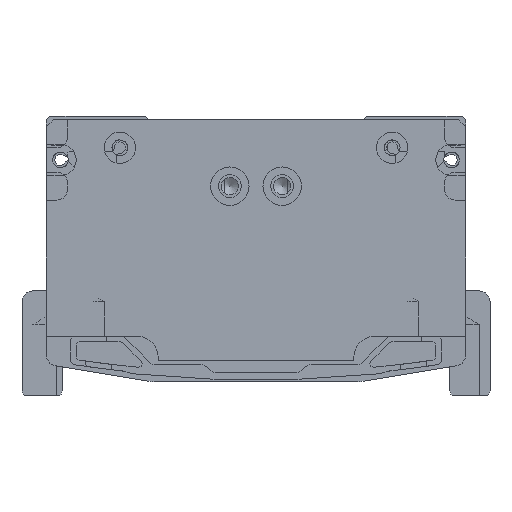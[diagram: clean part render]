
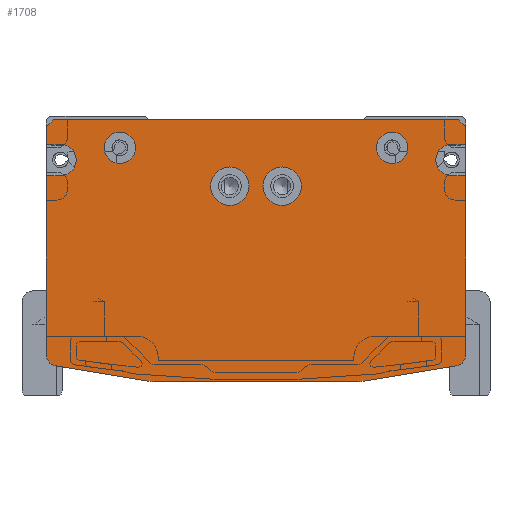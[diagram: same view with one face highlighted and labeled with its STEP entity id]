
A CAD part, front view. The second image highlights one B-rep face of the part: STEP entity #1708.
In plain terms, the highlighted planar face has unit normal (0, -1, 0).
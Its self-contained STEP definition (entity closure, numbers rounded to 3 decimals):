
#1708=ADVANCED_FACE('',(#2873,#2874,#2875,#2876,#2877),#2388,.F.);
#2388=PLANE('',#17058);
#2873=FACE_BOUND('',#4082,.T.);
#2874=FACE_BOUND('',#4083,.T.);
#2875=FACE_BOUND('',#4084,.T.);
#2876=FACE_BOUND('',#4085,.T.);
#2877=FACE_BOUND('',#4086,.T.);
#4082=EDGE_LOOP('',(#8028));
#4083=EDGE_LOOP('',(#8029));
#4084=EDGE_LOOP('',(#8030,#8031,#8032,#8033,#8034,#8035,#8036,#8037,#8038,
#8039,#8040,#8041,#8042,#8043,#8044,#8045,#8046,#8047,#8048,#8049));
#4085=EDGE_LOOP('',(#8050));
#4086=EDGE_LOOP('',(#8051));
#5294=CIRCLE('',#16959,5.5);
#5298=CIRCLE('',#16966,5.5);
#5301=CIRCLE('',#16972,4.5);
#5305=CIRCLE('',#16979,4.5);
#5312=CIRCLE('',#16997,4.5);
#5315=CIRCLE('',#17006,3.);
#5318=CIRCLE('',#17011,10.);
#5319=CIRCLE('',#17014,10.);
#5322=CIRCLE('',#17019,3.);
#5330=CIRCLE('',#17046,4.5);
#8028=ORIENTED_EDGE('',*,*,#13024,.T.);
#8029=ORIENTED_EDGE('',*,*,#13028,.T.);
#8030=ORIENTED_EDGE('',*,*,#13089,.T.);
#8031=ORIENTED_EDGE('',*,*,#13085,.F.);
#8032=ORIENTED_EDGE('',*,*,#13083,.F.);
#8033=ORIENTED_EDGE('',*,*,#13080,.F.);
#8034=ORIENTED_EDGE('',*,*,#13076,.T.);
#8035=ORIENTED_EDGE('',*,*,#13073,.T.);
#8036=ORIENTED_EDGE('',*,*,#12730,.F.);
#8037=ORIENTED_EDGE('',*,*,#13059,.T.);
#8038=ORIENTED_EDGE('',*,*,#13056,.T.);
#8039=ORIENTED_EDGE('',*,*,#13054,.F.);
#8040=ORIENTED_EDGE('',*,*,#12726,.F.);
#8041=ORIENTED_EDGE('',*,*,#13050,.T.);
#8042=ORIENTED_EDGE('',*,*,#12701,.F.);
#8043=ORIENTED_EDGE('',*,*,#13048,.T.);
#8044=ORIENTED_EDGE('',*,*,#12457,.F.);
#8045=ORIENTED_EDGE('',*,*,#13124,.T.);
#8046=ORIENTED_EDGE('',*,*,#13121,.T.);
#8047=ORIENTED_EDGE('',*,*,#13119,.F.);
#8048=ORIENTED_EDGE('',*,*,#12453,.F.);
#8049=ORIENTED_EDGE('',*,*,#13092,.T.);
#8050=ORIENTED_EDGE('',*,*,#13035,.F.);
#8051=ORIENTED_EDGE('',*,*,#13031,.F.);
#10722=VERTEX_POINT('',#24858);
#10723=VERTEX_POINT('',#24860);
#10726=VERTEX_POINT('',#24866);
#10727=VERTEX_POINT('',#24868);
#10848=VERTEX_POINT('',#25698);
#10849=VERTEX_POINT('',#25700);
#10864=VERTEX_POINT('',#25746);
#10865=VERTEX_POINT('',#25748);
#10868=VERTEX_POINT('',#25754);
#10869=VERTEX_POINT('',#25756);
#11068=VERTEX_POINT('',#26845);
#11072=VERTEX_POINT('',#26856);
#11075=VERTEX_POINT('',#26865);
#11078=VERTEX_POINT('',#26875);
#11086=VERTEX_POINT('',#26910);
#11088=VERTEX_POINT('',#26917);
#11099=VERTEX_POINT('',#26951);
#11101=VERTEX_POINT('',#26957);
#11104=VERTEX_POINT('',#26965);
#11106=VERTEX_POINT('',#26971);
#11107=VERTEX_POINT('',#26975);
#11110=VERTEX_POINT('',#26983);
#11122=VERTEX_POINT('',#27042);
#11124=VERTEX_POINT('',#27049);
#12453=EDGE_CURVE('',#10722,#10723,#14259,.T.);
#12457=EDGE_CURVE('',#10726,#10727,#14263,.T.);
#12701=EDGE_CURVE('',#10848,#10849,#14390,.T.);
#12726=EDGE_CURVE('',#10864,#10865,#14415,.T.);
#12730=EDGE_CURVE('',#10868,#10869,#14419,.T.);
#13024=EDGE_CURVE('',#11068,#11068,#5294,.T.);
#13028=EDGE_CURVE('',#11072,#11072,#5298,.T.);
#13031=EDGE_CURVE('',#11075,#11075,#5301,.T.);
#13035=EDGE_CURVE('',#11078,#11078,#5305,.T.);
#13048=EDGE_CURVE('',#10848,#10727,#14593,.T.);
#13050=EDGE_CURVE('',#10864,#10849,#14595,.T.);
#13054=EDGE_CURVE('',#10865,#11086,#14599,.T.);
#13056=EDGE_CURVE('',#11088,#11086,#5312,.T.);
#13059=EDGE_CURVE('',#10868,#11088,#14602,.T.);
#13073=EDGE_CURVE('',#11099,#10869,#5315,.T.);
#13076=EDGE_CURVE('',#11101,#11099,#14615,.T.);
#13080=EDGE_CURVE('',#11101,#11104,#5318,.T.);
#13083=EDGE_CURVE('',#11104,#11106,#14620,.T.);
#13085=EDGE_CURVE('',#11106,#11107,#5319,.T.);
#13089=EDGE_CURVE('',#11110,#11107,#14624,.T.);
#13092=EDGE_CURVE('',#10722,#11110,#5322,.T.);
#13119=EDGE_CURVE('',#10723,#11122,#14646,.T.);
#13121=EDGE_CURVE('',#11124,#11122,#5330,.T.);
#13124=EDGE_CURVE('',#10726,#11124,#14649,.T.);
#14259=LINE('',#24859,#15366);
#14263=LINE('',#24867,#15370);
#14390=LINE('',#25699,#15497);
#14415=LINE('',#25747,#15522);
#14419=LINE('',#25755,#15526);
#14593=LINE('',#26902,#15700);
#14595=LINE('',#26905,#15702);
#14599=LINE('',#26912,#15706);
#14602=LINE('',#26921,#15709);
#14615=LINE('',#26956,#15722);
#14620=LINE('',#26970,#15727);
#14624=LINE('',#26982,#15731);
#14646=LINE('',#27044,#15753);
#14649=LINE('',#27053,#15756);
#15366=VECTOR('',#19141,1.);
#15370=VECTOR('',#19145,1.);
#15497=VECTOR('',#19574,1.);
#15522=VECTOR('',#19613,1.);
#15526=VECTOR('',#19617,1.);
#15700=VECTOR('',#20377,1.);
#15702=VECTOR('',#20381,1.);
#15706=VECTOR('',#20387,1.);
#15709=VECTOR('',#20398,1.);
#15722=VECTOR('',#20431,1.);
#15727=VECTOR('',#20444,1.);
#15731=VECTOR('',#20456,1.);
#15753=VECTOR('',#20532,1.);
#15756=VECTOR('',#20543,1.);
#16959=AXIS2_PLACEMENT_3D('',#26844,#20302,#20303);
#16966=AXIS2_PLACEMENT_3D('',#26855,#20316,#20317);
#16972=AXIS2_PLACEMENT_3D('',#26864,#20328,#20329);
#16979=AXIS2_PLACEMENT_3D('',#26874,#20342,#20343);
#16997=AXIS2_PLACEMENT_3D('',#26916,#20392,#20393);
#17006=AXIS2_PLACEMENT_3D('',#26950,#20424,#20425);
#17011=AXIS2_PLACEMENT_3D('',#26964,#20438,#20439);
#17014=AXIS2_PLACEMENT_3D('',#26974,#20448,#20449);
#17019=AXIS2_PLACEMENT_3D('',#26987,#20462,#20463);
#17046=AXIS2_PLACEMENT_3D('',#27048,#20537,#20538);
#17058=AXIS2_PLACEMENT_3D('',#27070,#20568,#20569);
#19141=DIRECTION('',(0.,0.,1.));
#19145=DIRECTION('',(0.,0.,1.));
#19574=DIRECTION('',(1.,0.,0.));
#19613=DIRECTION('',(0.,0.,-1.));
#19617=DIRECTION('',(0.,0.,-1.));
#20302=DIRECTION('',(0.,1.,0.));
#20303=DIRECTION('',(1.,0.,0.));
#20316=DIRECTION('',(0.,1.,0.));
#20317=DIRECTION('',(1.,0.,0.));
#20328=DIRECTION('',(0.,-1.,0.));
#20329=DIRECTION('',(1.,0.,0.));
#20342=DIRECTION('',(0.,-1.,0.));
#20343=DIRECTION('',(1.,0.,0.));
#20377=DIRECTION('',(-0.707,0.,-0.707));
#20381=DIRECTION('',(-0.707,0.,0.707));
#20387=DIRECTION('',(-1.,0.,0.));
#20392=DIRECTION('',(0.,1.,0.));
#20393=DIRECTION('',(0.,0.,-1.));
#20398=DIRECTION('',(-1.,0.,0.));
#20424=DIRECTION('',(0.,-1.,0.));
#20425=DIRECTION('',(0.164,0.,-0.986));
#20431=DIRECTION('',(0.986,0.,0.164));
#20438=DIRECTION('',(0.,1.,0.));
#20439=DIRECTION('',(0.164,0.,-0.986));
#20444=DIRECTION('',(-1.,0.,0.));
#20448=DIRECTION('',(0.,1.,0.));
#20449=DIRECTION('',(0.,0.,-1.));
#20456=DIRECTION('',(0.986,0.,-0.164));
#20462=DIRECTION('',(0.,-1.,0.));
#20463=DIRECTION('',(-1.,0.,0.));
#20532=DIRECTION('',(1.,0.,0.));
#20537=DIRECTION('',(0.,1.,0.));
#20538=DIRECTION('',(0.,0.,1.));
#20543=DIRECTION('',(1.,0.,0.));
#20568=DIRECTION('',(0.,1.,0.));
#20569=DIRECTION('',(1.,0.,0.));
#24858=CARTESIAN_POINT('',(-60.,-1812.,-69.459));
#24859=CARTESIAN_POINT('',(-60.,-1812.,-69.459));
#24860=CARTESIAN_POINT('',(-60.,-1812.,-18.));
#24866=CARTESIAN_POINT('',(-60.,-1812.,-9.));
#24867=CARTESIAN_POINT('',(-60.,-1812.,-9.));
#24868=CARTESIAN_POINT('',(-60.,-1812.,-4.));
#25698=CARTESIAN_POINT('',(-58.,-1812.,-2.));
#25699=CARTESIAN_POINT('',(-58.,-1812.,-2.));
#25700=CARTESIAN_POINT('',(58.,-1812.,-2.));
#25746=CARTESIAN_POINT('',(60.,-1812.,-4.));
#25747=CARTESIAN_POINT('',(60.,-1812.,-4.));
#25748=CARTESIAN_POINT('',(60.,-1812.,-9.));
#25754=CARTESIAN_POINT('',(60.,-1812.,-18.));
#25755=CARTESIAN_POINT('',(60.,-1812.,-18.));
#25756=CARTESIAN_POINT('',(60.,-1812.,-69.459));
#26844=CARTESIAN_POINT('',(7.5,-1812.,-21.));
#26845=CARTESIAN_POINT('',(13.,-1812.,-21.));
#26855=CARTESIAN_POINT('',(-7.5,-1812.,-21.));
#26856=CARTESIAN_POINT('',(-2.,-1812.,-21.));
#26864=CARTESIAN_POINT('',(-39.,-1812.,-10.));
#26865=CARTESIAN_POINT('',(-34.5,-1812.,-10.));
#26874=CARTESIAN_POINT('',(39.,-1812.,-10.));
#26875=CARTESIAN_POINT('',(43.5,-1812.,-10.));
#26902=CARTESIAN_POINT('',(-58.,-1812.,-2.));
#26905=CARTESIAN_POINT('',(60.,-1812.,-4.));
#26910=CARTESIAN_POINT('',(56.,-1812.,-9.));
#26912=CARTESIAN_POINT('',(60.,-1812.,-9.));
#26916=CARTESIAN_POINT('',(56.,-1812.,-13.5));
#26917=CARTESIAN_POINT('',(56.,-1812.,-18.));
#26921=CARTESIAN_POINT('',(60.,-1812.,-18.));
#26950=CARTESIAN_POINT('',(57.,-1812.,-69.459));
#26951=CARTESIAN_POINT('',(57.493,-1812.,-72.418));
#26956=CARTESIAN_POINT('',(30.816,-1812.,-76.864));
#26957=CARTESIAN_POINT('',(30.816,-1812.,-76.864));
#26964=CARTESIAN_POINT('',(29.172,-1812.,-67.));
#26965=CARTESIAN_POINT('',(29.172,-1812.,-77.));
#26970=CARTESIAN_POINT('',(29.172,-1812.,-77.));
#26971=CARTESIAN_POINT('',(-29.172,-1812.,-77.));
#26974=CARTESIAN_POINT('',(-29.172,-1812.,-67.));
#26975=CARTESIAN_POINT('',(-30.816,-1812.,-76.864));
#26982=CARTESIAN_POINT('',(-57.493,-1812.,-72.418));
#26983=CARTESIAN_POINT('',(-57.493,-1812.,-72.418));
#26987=CARTESIAN_POINT('',(-57.,-1812.,-69.459));
#27042=CARTESIAN_POINT('',(-56.,-1812.,-18.));
#27044=CARTESIAN_POINT('',(-60.,-1812.,-18.));
#27048=CARTESIAN_POINT('',(-56.,-1812.,-13.5));
#27049=CARTESIAN_POINT('',(-56.,-1812.,-9.));
#27053=CARTESIAN_POINT('',(-60.,-1812.,-9.));
#27070=CARTESIAN_POINT('',(0.,-1812.,-2.));
